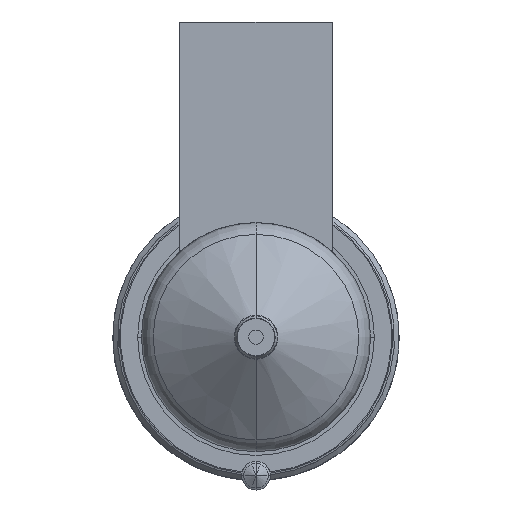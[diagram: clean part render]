
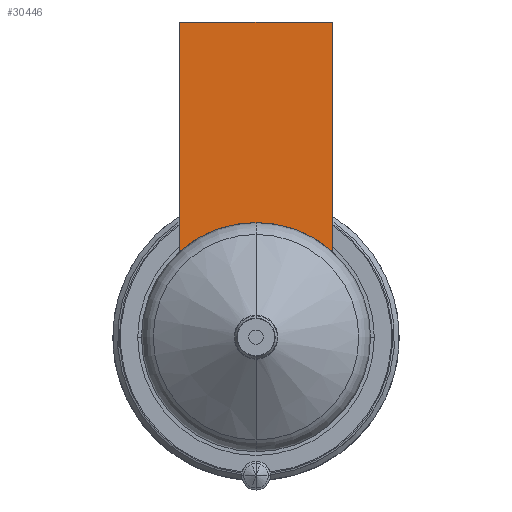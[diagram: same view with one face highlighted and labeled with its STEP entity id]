
A CAD part, front view. The second image highlights one B-rep face of the part: STEP entity #30446.
In plain terms, the highlighted planar face has unit normal (0, -1, 0).
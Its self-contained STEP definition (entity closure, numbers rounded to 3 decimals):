
#29762=DIRECTION('',(0.,0.,-1.));
#29763=VECTOR('',#29762,24.056);
#29764=CARTESIAN_POINT('',(-8.,-56.,33.));
#29765=LINE('',#29764,#29763);
#29802=DIRECTION('',(1.,0.,0.));
#29803=VECTOR('',#29802,16.);
#29804=CARTESIAN_POINT('',(-8.,-56.,33.));
#29805=LINE('',#29804,#29803);
#29809=CARTESIAN_POINT('',(0.,-56.,0.));
#29810=DIRECTION('',(0.,-1.,0.));
#29811=DIRECTION('',(0.667,0.,0.745));
#29812=AXIS2_PLACEMENT_3D('',#29809,#29810,#29811);
#29817=CARTESIAN_POINT('',(0.,-56.,0.));
#29818=DIRECTION('',(0.,-1.,0.));
#29819=DIRECTION('',(0.,0.,1.));
#29820=AXIS2_PLACEMENT_3D('',#29817,#29818,#29819);
#29853=DIRECTION('',(0.,0.,-1.));
#29854=VECTOR('',#29853,24.056);
#29855=CARTESIAN_POINT('',(8.,-56.,33.));
#29856=LINE('',#29855,#29854);
#30310=CARTESIAN_POINT('',(-8.,-56.,33.));
#30311=VERTEX_POINT('',#30310);
#30316=CARTESIAN_POINT('',(8.,-56.,33.));
#30317=VERTEX_POINT('',#30316);
#30320=CARTESIAN_POINT('',(-8.,-56.,8.944));
#30321=VERTEX_POINT('',#30320);
#30324=CARTESIAN_POINT('',(8.,-56.,8.944));
#30325=VERTEX_POINT('',#30324);
#30365=CARTESIAN_POINT('',(0.,-56.,12.));
#30366=VERTEX_POINT('',#30365);
#30431=CARTESIAN_POINT('',(-8.,-56.,33.));
#30432=DIRECTION('',(0.,-1.,0.));
#30433=DIRECTION('',(0.,0.,-1.));
#30434=AXIS2_PLACEMENT_3D('',#30431,#30432,#30433);
#30435=PLANE('',#30434);
#30436=ORIENTED_EDGE('',*,*,#30379,.F.);
#30438=ORIENTED_EDGE('',*,*,#30437,.T.);
#30440=ORIENTED_EDGE('',*,*,#30439,.T.);
#30442=ORIENTED_EDGE('',*,*,#30441,.T.);
#30443=ORIENTED_EDGE('',*,*,#30411,.T.);
#30444=EDGE_LOOP('',(#30436,#30438,#30440,#30442,#30443));
#30445=FACE_OUTER_BOUND('',#30444,.F.);
#30446=ADVANCED_FACE('',(#30445),#30435,.T.);
#29813=CIRCLE('',#29812,12.);
#29821=CIRCLE('',#29820,12.);
#30379=EDGE_CURVE('',#30311,#30321,#29765,.T.);
#30411=EDGE_CURVE('',#30366,#30321,#29821,.T.);
#30437=EDGE_CURVE('',#30311,#30317,#29805,.T.);
#30439=EDGE_CURVE('',#30317,#30325,#29856,.T.);
#30441=EDGE_CURVE('',#30325,#30366,#29813,.T.);
